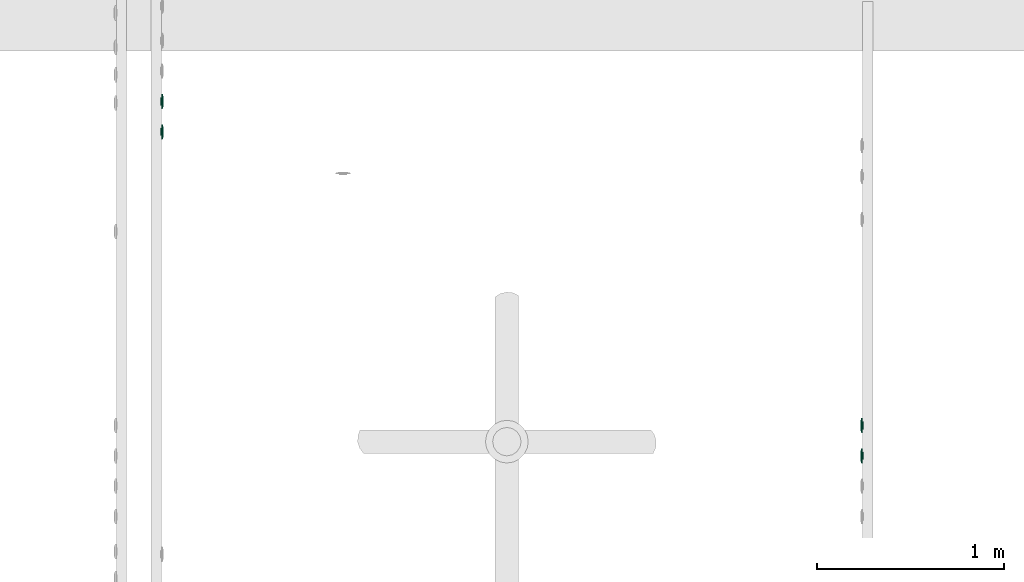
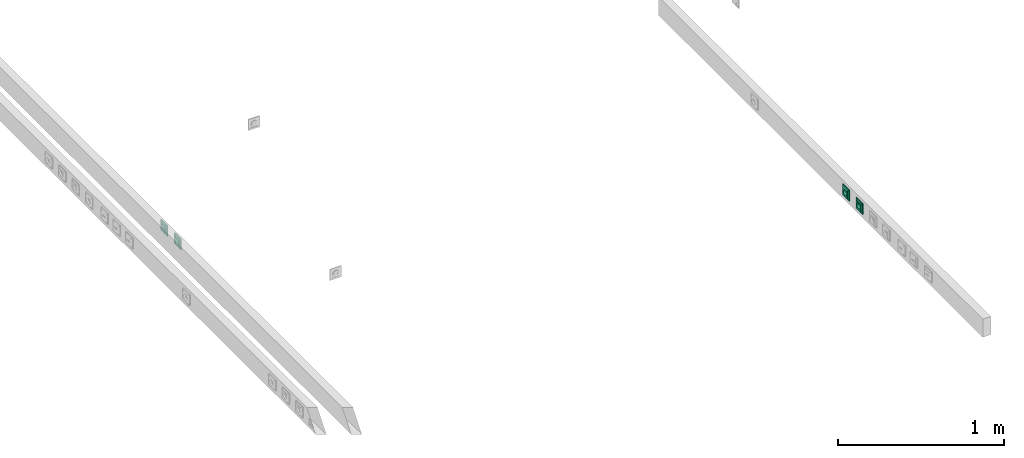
# One storey, part 44 of 166: 4 flow terminals.
"""IFC2X3 building model written with IfcOpenShell, lengths in metres."""

from ifc_helpers import new_model, entity, si_unit, converted_unit, derived_unit, direction, frame, origin, place, context, subcontext, project, spatial, face_set, surface_model, source, transform, mapped, type_object, type_shapes, element, save


model = new_model("IFC2X3")

# Units and contexts
model_context = context("Model", 3, precision=1e-05, world=origin(), true_north=direction((6.12303176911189e-17, 1.0)))
body_context = subcontext(model_context, "Body", "Model", "MODEL_VIEW")
ifc_project = project(units=[si_unit("LENGTHUNIT", "METRE"), si_unit("AREAUNIT", "SQUARE_METRE"), si_unit("VOLUMEUNIT", "CUBIC_METRE"), converted_unit("PLANEANGLEUNIT", "DEGREE", entity("IfcRatioMeasure", 0.0174532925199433), si_unit("PLANEANGLEUNIT", "RADIAN"), dimensions=[0, 0, 0, 0, 0, 0, 0]), si_unit("MASSUNIT", "GRAM", prefix="KILO"), derived_unit("MASSDENSITYUNIT", [(si_unit("MASSUNIT", "GRAM", prefix="KILO"), 1), (si_unit("LENGTHUNIT", "METRE"), -3)]), si_unit("TIMEUNIT", "SECOND"), si_unit("FREQUENCYUNIT", "HERTZ"), si_unit("THERMODYNAMICTEMPERATUREUNIT", "DEGREE_CELSIUS"), derived_unit("THERMALTRANSMITTANCEUNIT", [(si_unit("MASSUNIT", "GRAM", prefix="KILO"), 1), (si_unit("THERMODYNAMICTEMPERATUREUNIT", "KELVIN"), -1), (si_unit("TIMEUNIT", "SECOND"), -3)]), derived_unit("VOLUMETRICFLOWRATEUNIT", [(si_unit("LENGTHUNIT", "METRE"), 3), (si_unit("TIMEUNIT", "SECOND"), -1)]), si_unit("ELECTRICCURRENTUNIT", "AMPERE"), si_unit("ELECTRICVOLTAGEUNIT", "VOLT"), si_unit("POWERUNIT", "WATT"), si_unit("FORCEUNIT", "NEWTON"), si_unit("ILLUMINANCEUNIT", "LUX"), si_unit("LUMINOUSFLUXUNIT", "LUMEN"), si_unit("LUMINOUSINTENSITYUNIT", "CANDELA"), derived_unit("USERDEFINED", [(si_unit("MASSUNIT", "GRAM", prefix="KILO"), -1), (si_unit("LENGTHUNIT", "METRE"), -2), (si_unit("TIMEUNIT", "SECOND"), 3), (si_unit("LUMINOUSFLUXUNIT", "LUMEN"), 1)]), derived_unit("LINEARVELOCITYUNIT", [(si_unit("LENGTHUNIT", "METRE"), 1), (si_unit("TIMEUNIT", "SECOND"), -1)]), si_unit("PRESSUREUNIT", "PASCAL"), derived_unit("USERDEFINED", [(si_unit("LENGTHUNIT", "METRE"), -2), (si_unit("MASSUNIT", "GRAM", prefix="KILO"), 1), (si_unit("TIMEUNIT", "SECOND"), -2)])], contexts=[model_context])

# Site, building, storey
site_placement = place(None, origin())
site = spatial("IfcSite", under=ifc_project, at=site_placement, Name="Default", CompositionType="ELEMENT")
building_placement = place(site_placement, origin())
building = spatial("IfcBuilding", under=site, at=building_placement, CompositionType="ELEMENT")
storey_placement = place(building_placement, frame((0.0, 0.0, 4.27)))
storey = spatial("IfcBuildingStorey", under=building, at=storey_placement, Name="01", CompositionType="ELEMENT", Elevation=4.27)

# Flow terminals
light_fixture_type = type_object("IfcLightFixtureType", Name="IP20 ONDULEE", PredefinedType="NOTDEFINED")
shared_shape = source(origin(), body_context, "Body", "SurfaceModel", [
    surface_model("IfcFaceBasedSurfaceModel", [(-0.00225000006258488, 0.0127499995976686, 0.00949633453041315), (0.0, 0.0104999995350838, 0.00949633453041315), (0.0, 0.0115376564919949, 0.0101656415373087), (0.0, 0.0139623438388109, 0.0101656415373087), (0.0, 0.0144589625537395, 0.00984531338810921), (0.0, 0.0121178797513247, 0.0102778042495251), (0.0, 0.0133821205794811, 0.0102778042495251), (0.0, 0.0127499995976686, 0.010399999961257), (0.0, 0.0149999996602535, 0.00949633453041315), (0.00225000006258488, 0.0127499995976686, 0.00949633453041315), (0.0, 0.0110410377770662, 0.00984531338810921), (0.0, 0.0127499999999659, 0.00949633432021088), (0.00225000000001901, 0.0127499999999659, 0.00949633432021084), (0.00217333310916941, 0.0121676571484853, 0.00949633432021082), (0.00194855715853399, 0.0116249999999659, 0.00949633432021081), (0.00159099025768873, 0.0111590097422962, 0.00949633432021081), (0.001125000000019, 0.010801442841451, 0.00949633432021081), (0.00058234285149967, 0.0105766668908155, 0.00949633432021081), (0.0, 0.0104999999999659, 0.00949633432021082), (-0.000582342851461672, 0.0105766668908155, 0.00949633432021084), (-0.001124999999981, 0.010801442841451, 0.00949633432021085), (-0.00159099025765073, 0.0111590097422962, 0.00949633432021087), (-0.00194855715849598, 0.011624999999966, 0.00949633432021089), (-0.0021733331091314, 0.0121676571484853, 0.00949633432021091), (-0.00224999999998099, 0.012749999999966, 0.00949633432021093), (-0.00217333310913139, 0.0133323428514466, 0.00949633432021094), (-0.00194855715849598, 0.013874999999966, 0.00949633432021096), (-0.00159099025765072, 0.0143409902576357, 0.00949633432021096), (-0.00112499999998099, 0.0146985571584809, 0.00949633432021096), (-0.00058234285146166, 0.0149233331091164, 0.00949633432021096), (0.0, 0.0149999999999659, 0.00949633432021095), (0.000582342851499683, 0.0149233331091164, 0.00949633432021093), (0.00112500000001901, 0.0146985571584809, 0.00949633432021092), (0.00159099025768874, 0.0143409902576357, 0.00949633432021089), (0.001948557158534, 0.0138749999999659, 0.00949633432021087), (0.00217333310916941, 0.0133323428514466, 0.00949633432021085), (0.00225000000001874, 0.0127499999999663, -0.00360000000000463), (0.00217333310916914, 0.0121676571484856, -0.00360000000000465), (0.00194855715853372, 0.0116249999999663, -0.00360000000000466), (0.00159099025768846, 0.0111590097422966, -0.00360000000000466), (0.00112500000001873, 0.0108014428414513, -0.00360000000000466), (0.000582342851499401, 0.0105766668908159, -0.00360000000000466), (0.0, 0.0104999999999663, -0.00360000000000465), (-0.000582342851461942, 0.0105766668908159, -0.00360000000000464), (-0.00112499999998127, 0.0108014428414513, -0.00360000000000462), (-0.001590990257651, 0.0111590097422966, -0.0036000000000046), (-0.00194855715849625, 0.0116249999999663, -0.00360000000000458), (-0.00217333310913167, 0.0121676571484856, -0.00360000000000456), (-0.00224999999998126, 0.0127499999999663, -0.00360000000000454), (-0.00217333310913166, 0.013332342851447, -0.00360000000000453), (-0.00194855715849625, 0.0138749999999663, -0.00360000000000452), (-0.00159099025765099, 0.014340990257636, -0.00360000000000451), (-0.00112499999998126, 0.0146985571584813, -0.00360000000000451), (-0.000582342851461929, 0.0149233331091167, -0.00360000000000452), (0.0, 0.0149999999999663, -0.00360000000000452), (0.000582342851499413, 0.0149233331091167, -0.00360000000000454), (0.00112500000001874, 0.0146985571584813, -0.00360000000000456), (0.00159099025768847, 0.014340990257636, -0.00360000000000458), (0.00194855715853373, 0.0138749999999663, -0.0036000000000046), (0.00217333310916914, 0.013332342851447, -0.00360000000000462), (0.0270000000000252, 0.026999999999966, 0.0113999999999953), (-0.0269999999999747, 0.026999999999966, 0.0113999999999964), (-0.0269999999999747, -0.0270000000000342, 0.0113999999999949), (0.0270000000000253, -0.0270000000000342, 0.0113999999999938), (-0.0199999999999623, 0.0, 0.0113999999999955), (-0.0193185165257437, -0.00517638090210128, 0.0113999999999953), (-0.0173205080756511, -0.0100000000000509, 0.0113999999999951), (-0.0141421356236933, -0.0141421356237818, 0.011399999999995), (-0.00999999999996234, -0.0173205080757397, 0.0113999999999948), (-0.00517638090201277, -0.0193185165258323, 0.0113999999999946), (0.0, -0.0200000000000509, 0.0113999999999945), (0.00517638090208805, -0.0193185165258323, 0.0113999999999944), (0.0100000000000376, -0.0173205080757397, 0.0113999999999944), (0.0141421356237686, -0.0141421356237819, 0.0113999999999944), (0.0173205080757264, -0.010000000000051, 0.0113999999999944), (0.0193185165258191, -0.00517638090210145, 0.0113999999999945), (0.0200000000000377, 0.0, 0.0113999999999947), (0.0193185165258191, 0.00517638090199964, 0.0113999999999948), (0.0173205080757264, 0.0099999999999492, 0.011399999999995), (0.0141421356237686, 0.0141421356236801, 0.0113999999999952), (0.0100000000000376, 0.0173205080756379, 0.0113999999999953), (0.00517638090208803, 0.0193185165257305, 0.0113999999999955), (0.0, 0.0199999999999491, 0.0113999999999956), (-0.00517638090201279, 0.0193185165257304, 0.0113999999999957), (-0.00999999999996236, 0.0173205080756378, 0.0113999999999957), (-0.0141421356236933, 0.01414213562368, 0.0113999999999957), (-0.0173205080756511, 0.00999999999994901, 0.0113999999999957), (-0.0193185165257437, 0.00517638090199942, 0.0113999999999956), (0.0270000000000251, 0.0269999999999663, 0.00199999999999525), (0.0270000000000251, -0.0270000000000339, 0.00199999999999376), (-0.0269999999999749, -0.0270000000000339, 0.00199999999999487), (-0.0269999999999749, 0.0269999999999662, 0.00199999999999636), (0.0210000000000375, 0.0, 0.00199999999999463), (0.0202844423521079, -0.00543519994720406, 0.00199999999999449), (0.0181865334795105, -0.0105000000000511, 0.0019999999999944), (0.0148492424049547, -0.0148492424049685, 0.00199999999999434), (0.0105000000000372, -0.0181865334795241, 0.00199999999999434), (0.0054351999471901, -0.0202844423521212, 0.00199999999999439), (0.0, -0.0210000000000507, 0.00199999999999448), (-0.00543519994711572, -0.020284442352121, 0.00199999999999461), (-0.0104999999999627, -0.0181865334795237, 0.00199999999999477), (-0.0148492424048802, -0.014849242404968, 0.00199999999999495), (-0.0181865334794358, -0.0105000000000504, 0.00199999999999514), (-0.020284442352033, -0.00543519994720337, 0.00199999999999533), (-0.0209999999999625, 0.0, 0.00199999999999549), (-0.0202844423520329, 0.0054351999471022, 0.00199999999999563), (-0.0181865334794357, 0.0104999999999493, 0.00199999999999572), (-0.01484924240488, 0.0148492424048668, 0.00199999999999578), (-0.0104999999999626, 0.0181865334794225, 0.00199999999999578), (-0.00543519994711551, 0.0202844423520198, 0.00199999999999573), (0.0, 0.0209999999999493, 0.00199999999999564), (0.00543519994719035, 0.0202844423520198, 0.00199999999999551), (0.0105000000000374, 0.0181865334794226, 0.00199999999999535), (0.0148492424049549, 0.0148492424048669, 0.00199999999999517), (0.0181865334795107, 0.0104999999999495, 0.00199999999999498), (0.0202844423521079, 0.00543519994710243, 0.00199999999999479), (0.0200000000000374, 0.0, -0.00360000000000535), (0.0193185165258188, -0.00517638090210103, -0.00360000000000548), (0.0173205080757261, -0.0100000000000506, -0.00360000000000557), (0.0141421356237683, -0.0141421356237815, -0.00360000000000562), (0.0100000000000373, -0.0173205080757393, -0.00360000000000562), (0.00517638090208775, -0.0193185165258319, -0.00360000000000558), (0.0, -0.0200000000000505, -0.00360000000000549), (-0.00517638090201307, -0.0193185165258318, -0.00360000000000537), (-0.00999999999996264, -0.0173205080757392, -0.00360000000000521), (-0.0141421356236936, -0.0141421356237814, -0.00360000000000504), (-0.0173205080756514, -0.0100000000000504, -0.00360000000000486), (-0.019318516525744, -0.00517638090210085, -0.00360000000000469), (-0.0199999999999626, 0.0, -0.00360000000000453), (-0.0193185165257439, 0.00517638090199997, -0.0036000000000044), (-0.0173205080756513, 0.00999999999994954, -0.00360000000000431), (-0.0141421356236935, 0.0141421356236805, -0.00360000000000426), (-0.00999999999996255, 0.0173205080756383, -0.00360000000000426), (-0.00517638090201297, 0.0193185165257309, -0.0036000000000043), (0.0, 0.0199999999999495, -0.00360000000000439), (0.00517638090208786, 0.0193185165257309, -0.00360000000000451), (0.0100000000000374, 0.0173205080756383, -0.00360000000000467), (0.0141421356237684, 0.0141421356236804, -0.00360000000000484), (0.0173205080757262, 0.0099999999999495, -0.00360000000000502), (0.0193185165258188, 0.00517638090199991, -0.00360000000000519), (-0.0123499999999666, 0.0, -0.00360000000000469), (-0.0122562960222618, -0.000711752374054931, -0.00360000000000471), (-0.0119815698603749, -0.00137500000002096, -0.00360000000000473), (-0.0115445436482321, -0.00194454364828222, -0.00360000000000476), (-0.0109749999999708, -0.00238156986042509, -0.00360000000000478), (-0.0103117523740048, -0.00265629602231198, -0.0036000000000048), (-0.00959999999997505, -0.00275000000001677, -0.00360000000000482), (-0.0088882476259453, -0.00265629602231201, -0.00360000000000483), (-0.00822499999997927, -0.00238156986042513, -0.00360000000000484), (-0.00765545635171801, -0.00194454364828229, -0.00360000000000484), (-0.00721843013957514, -0.00137500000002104, -0.00360000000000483), (-0.00694370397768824, -0.000711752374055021, -0.00360000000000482), (-0.00684999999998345, 0.0, -0.0036000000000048), (-0.00694370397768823, 0.000711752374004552, -0.00360000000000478), (-0.00721843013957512, 0.00137499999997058, -0.00360000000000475), (-0.00765545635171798, 0.00194454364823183, -0.00360000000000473), (-0.00822499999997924, 0.00238156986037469, -0.0036000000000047), (-0.00888824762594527, 0.00265629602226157, -0.00360000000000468), (-0.00959999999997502, 0.00274999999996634, -0.00360000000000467), (-0.0103117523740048, 0.00265629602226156, -0.00360000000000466), (-0.0109749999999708, 0.00238156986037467, -0.00360000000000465), (-0.011544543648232, 0.00194454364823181, -0.00360000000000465), (-0.0119815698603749, 0.00137499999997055, -0.00360000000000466), (-0.0122562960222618, 0.000711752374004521, -0.00360000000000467), (0.00685000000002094, 0.0, -0.00360000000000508), (0.0069437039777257, -0.00071175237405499, -0.0036000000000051), (0.00721843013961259, -0.00137500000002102, -0.00360000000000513), (0.00765545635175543, -0.00194454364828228, -0.00360000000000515), (0.00822500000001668, -0.00238156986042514, -0.00360000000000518), (0.00888824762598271, -0.00265629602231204, -0.0036000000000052), (0.00960000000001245, -0.00275000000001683, -0.00360000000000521), (0.0103117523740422, -0.00265629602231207, -0.00360000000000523), (0.0109750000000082, -0.00238156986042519, -0.00360000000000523), (0.0115445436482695, -0.00194454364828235, -0.00360000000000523), (0.0119815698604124, -0.0013750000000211, -0.00360000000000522), (0.0122562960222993, -0.00071175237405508, -0.00360000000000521), (0.012350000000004, 0.0, -0.00360000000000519), (0.0122562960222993, 0.000711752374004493, -0.00360000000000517), (0.0119815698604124, 0.00137499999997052, -0.00360000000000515), (0.0115445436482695, 0.00194454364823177, -0.00360000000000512), (0.0109750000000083, 0.00238156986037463, -0.0036000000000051), (0.0103117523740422, 0.00265629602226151, -0.00360000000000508), (0.00960000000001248, 0.00274999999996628, -0.00360000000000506), (0.00888824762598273, 0.0026562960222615, -0.00360000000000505), (0.0082250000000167, 0.00238156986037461, -0.00360000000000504), (0.00765545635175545, 0.00194454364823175, -0.00360000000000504), (0.0072184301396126, 0.00137499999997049, -0.00360000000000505), (0.00694370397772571, 0.000711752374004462, -0.00360000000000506), (0.0210000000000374, 0.0, -0.00460000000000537), (0.0202844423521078, -0.00543519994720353, -0.00460000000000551), (0.0181865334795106, -0.0105000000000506, -0.0046000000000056), (0.0148492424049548, -0.0148492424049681, -0.00460000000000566), (0.0105000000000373, -0.0181865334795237, -0.00460000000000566), (0.00543519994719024, -0.0202844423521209, -0.00460000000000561), (0.0, -0.0210000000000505, -0.00460000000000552), (-0.00543519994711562, -0.0202844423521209, -0.00460000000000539), (-0.0104999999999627, -0.0181865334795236, -0.00460000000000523), (-0.0148492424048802, -0.0148492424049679, -0.00460000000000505), (-0.0181865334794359, -0.0105000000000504, -0.00460000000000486), (-0.0202844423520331, -0.00543519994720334, -0.00460000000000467), (-0.0209999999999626, 0.0, -0.00460000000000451), (-0.020284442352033, 0.00543519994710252, -0.00460000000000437), (-0.0181865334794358, 0.0104999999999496, -0.00460000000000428), (-0.0148492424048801, 0.0148492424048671, -0.00460000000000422), (-0.0104999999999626, 0.0181865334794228, -0.00460000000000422), (-0.00543519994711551, 0.02028444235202, -0.00460000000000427), (0.0, 0.0209999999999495, -0.00460000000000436), (0.00543519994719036, 0.02028444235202, -0.00460000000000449), (0.0105000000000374, 0.0181865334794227, -0.00460000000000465), (0.0148492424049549, 0.014849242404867, -0.00460000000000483), (0.0181865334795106, 0.0104999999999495, -0.00460000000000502), (0.0202844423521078, 0.00543519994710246, -0.00460000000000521), (-0.00684999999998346, 0.0, -0.0046000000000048), (-0.00694370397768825, 0.000711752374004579, -0.00460000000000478), (-0.00721843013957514, 0.00137499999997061, -0.00460000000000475), (-0.007655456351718, 0.00194454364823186, -0.00460000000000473), (-0.00822499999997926, 0.00238156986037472, -0.0046000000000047), (-0.00888824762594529, 0.0026562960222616, -0.00460000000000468), (-0.00959999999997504, 0.00274999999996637, -0.00460000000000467), (-0.0103117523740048, 0.00265629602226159, -0.00460000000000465), (-0.0109749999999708, 0.0023815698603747, -0.00460000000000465), (-0.0115445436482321, 0.00194454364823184, -0.00460000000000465), (-0.0119815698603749, 0.00137499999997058, -0.00460000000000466), (-0.0122562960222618, 0.000711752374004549, -0.00460000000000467), (-0.0123499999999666, 0.0, -0.00460000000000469), (-0.0122562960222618, -0.000711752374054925, -0.00460000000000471), (-0.0119815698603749, -0.00137500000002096, -0.00460000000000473), (-0.0115445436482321, -0.00194454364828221, -0.00460000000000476), (-0.0109749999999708, -0.00238156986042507, -0.00460000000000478), (-0.0103117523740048, -0.00265629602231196, -0.0046000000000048), (-0.00959999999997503, -0.00275000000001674, -0.00460000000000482), (-0.00888824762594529, -0.00265629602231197, -0.00460000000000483), (-0.00822499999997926, -0.00238156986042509, -0.00460000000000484), (-0.007655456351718, -0.00194454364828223, -0.00460000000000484), (-0.00721843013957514, -0.00137500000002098, -0.00460000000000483), (-0.00694370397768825, -0.000711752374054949, -0.00460000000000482), (0.012350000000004, 0.0, -0.00460000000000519), (0.0122562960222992, 0.000711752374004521, -0.00460000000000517), (0.0119815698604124, 0.00137499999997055, -0.00460000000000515), (0.0115445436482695, 0.0019445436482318, -0.00460000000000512), (0.0109750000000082, 0.00238156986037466, -0.0046000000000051), (0.0103117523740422, 0.00265629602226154, -0.00460000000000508), (0.00960000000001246, 0.00274999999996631, -0.00460000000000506), (0.00888824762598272, 0.00265629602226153, -0.00460000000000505), (0.00822500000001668, 0.00238156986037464, -0.00460000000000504), (0.00765545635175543, 0.00194454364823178, -0.00460000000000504), (0.00721843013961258, 0.00137499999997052, -0.00460000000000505), (0.00694370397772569, 0.00071175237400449, -0.00460000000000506), (0.00685000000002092, 0.0, -0.00460000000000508), (0.00694370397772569, -0.000711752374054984, -0.0046000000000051), (0.00721843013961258, -0.00137500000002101, -0.00460000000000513), (0.00765545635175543, -0.00194454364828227, -0.00460000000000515), (0.00822500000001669, -0.00238156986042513, -0.00460000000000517), (0.00888824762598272, -0.00265629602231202, -0.0046000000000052), (0.00960000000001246, -0.0027500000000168, -0.00460000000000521), (0.0103117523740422, -0.00265629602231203, -0.00460000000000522), (0.0109750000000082, -0.00238156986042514, -0.00460000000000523), (0.0115445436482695, -0.00194454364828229, -0.00460000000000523), (0.0119815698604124, -0.00137500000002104, -0.00460000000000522), (0.0122562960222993, -0.000711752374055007, -0.00460000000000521), (0.040350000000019, 0.0403499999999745, 0.00659999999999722), (0.040350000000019, -0.0403500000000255, 0.00659999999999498), (-0.0403499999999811, -0.0403500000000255, 0.00659999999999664), (-0.0403499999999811, 0.0403499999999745, 0.00659999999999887), (0.027000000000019, 0.0269999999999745, 0.00659999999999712), (-0.0269999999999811, 0.0269999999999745, 0.00659999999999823), (-0.026999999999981, -0.0270000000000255, 0.00659999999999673), (0.027000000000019, -0.0270000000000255, 0.00659999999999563), (0.027000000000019, 0.0269999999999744, 0.0103999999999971), (-0.026999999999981, 0.0269999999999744, 0.0103999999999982), (-0.026999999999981, -0.0270000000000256, 0.0103999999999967), (0.027000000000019, -0.0270000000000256, 0.0103999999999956), (0.040350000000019, 0.0403499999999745, 0.00659999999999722), (0.040350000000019, -0.0403500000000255, 0.00659999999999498), (-0.0403499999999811, -0.0403500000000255, 0.00659999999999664), (-0.0403499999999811, 0.0403499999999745, 0.00659999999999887), (-0.0269999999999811, 0.0269999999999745, 0.00659999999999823), (-0.0269999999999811, -0.0270000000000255, 0.00659999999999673), (0.0270000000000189, -0.0270000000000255, 0.00659999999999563), (0.0270000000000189, 0.0269999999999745, 0.00659999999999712), (0.0403500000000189, 0.0403499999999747, 0.0), (0.0403500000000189, -0.0403500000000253, 0.0), (-0.0403499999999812, -0.0403500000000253, 0.0), (-0.0403499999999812, 0.0403499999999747, 0.0), (0.0270000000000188, 0.0269999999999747, 0.0), (-0.0269999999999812, 0.0269999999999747, 0.0), (-0.0269999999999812, -0.0270000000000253, 0.0), (0.0270000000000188, -0.0270000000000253, 0.0)], [face_set([[[0, 1, 2]], [[3, 4, 2, 5]], [[6, 3, 5, 7]], [[2, 4, 0]], [[4, 8, 0]], [[3, 9, 8]], [[1, 9, 10]], [[2, 3, 6, 7]], [[3, 10, 9]], [[2, 10, 3]], [[11, 1, 0, 8]], [[11, 8, 9, 1]]]), face_set([[[12, 13, 14, 15, 16, 17, 18, 19, 20, 21, 22, 23, 24, 25, 26, 27, 28, 29, 30, 31, 32, 33, 34, 35]], [[36, 37, 38, 39, 40, 41, 42, 43, 44, 45, 46, 47, 48, 49, 50, 51, 52, 53, 54, 55, 56, 57, 58, 59]], [[48, 47, 23, 24]], [[47, 46, 22, 23]], [[45, 44, 20, 21]], [[46, 45, 21, 22]], [[44, 43, 19, 20]], [[18, 19, 43, 42]], [[42, 41, 17, 18]], [[41, 40, 16, 17]], [[39, 38, 14, 15]], [[40, 39, 15, 16]], [[38, 37, 13, 14]], [[12, 13, 37, 36]], [[36, 59, 35, 12]], [[59, 58, 34, 35]], [[57, 56, 32, 33]], [[58, 57, 33, 34]], [[56, 55, 31, 32]], [[30, 31, 55, 54]], [[54, 53, 29, 30]], [[53, 52, 28, 29]], [[51, 50, 26, 27]], [[52, 51, 27, 28]], [[50, 49, 25, 26]], [[24, 25, 49, 48]]]), face_set([[[60, 61, 62, 63], [64, 65, 66, 67, 68, 69, 70, 71, 72, 73, 74, 75, 76, 77, 78, 79, 80, 81, 82, 83, 84, 85, 86, 87]], [[88, 89, 90, 91], [92, 93, 94, 95, 96, 97, 98, 99, 100, 101, 102, 103, 104, 105, 106, 107, 108, 109, 110, 111, 112, 113, 114, 115]], [[61, 60, 88, 91]], [[62, 61, 91, 90]], [[63, 62, 90, 89]], [[60, 63, 89, 88]], [[116, 117, 118, 119, 120, 121, 122, 123, 124, 125, 126, 127, 128, 129, 130, 131, 132, 133, 134, 135, 136, 137, 138, 139], [140, 141, 142, 143, 144, 145, 146, 147, 148, 149, 150, 151, 152, 153, 154, 155, 156, 157, 158, 159, 160, 161, 162, 163], [164, 165, 166, 167, 168, 169, 170, 171, 172, 173, 174, 175, 176, 177, 178, 179, 180, 181, 182, 183, 184, 185, 186, 187]], [[64, 128, 127, 65]], [[65, 127, 126, 66]], [[67, 125, 124, 68]], [[66, 126, 125, 67]], [[68, 124, 123, 69]], [[122, 70, 69, 123]], [[70, 122, 121, 71]], [[71, 121, 120, 72]], [[73, 119, 118, 74]], [[72, 120, 119, 73]], [[74, 118, 117, 75]], [[116, 76, 75, 117]], [[76, 116, 139, 77]], [[77, 139, 138, 78]], [[79, 137, 136, 80]], [[78, 138, 137, 79]], [[80, 136, 135, 81]], [[134, 82, 81, 135]], [[82, 134, 133, 83]], [[83, 133, 132, 84]], [[84, 132, 131, 85]], [[85, 131, 130, 86]], [[130, 129, 87, 86]], [[64, 87, 129, 128]], [[188, 189, 190, 191, 192, 193, 194, 195, 196, 197, 198, 199, 200, 201, 202, 203, 204, 205, 206, 207, 208, 209, 210, 211], [212, 213, 214, 215, 216, 217, 218, 219, 220, 221, 222, 223, 224, 225, 226, 227, 228, 229, 230, 231, 232, 233, 234, 235], [236, 237, 238, 239, 240, 241, 242, 243, 244, 245, 246, 247, 248, 249, 250, 251, 252, 253, 254, 255, 256, 257, 258, 259]], [[200, 199, 103, 104]], [[199, 198, 102, 103]], [[197, 196, 100, 101]], [[198, 197, 101, 102]], [[196, 195, 99, 100]], [[98, 99, 195, 194]], [[194, 193, 97, 98]], [[193, 192, 96, 97]], [[191, 190, 94, 95]], [[192, 191, 95, 96]], [[190, 189, 93, 94]], [[92, 93, 189, 188]], [[188, 211, 115, 92]], [[211, 210, 114, 115]], [[209, 208, 112, 113]], [[210, 209, 113, 114]], [[208, 207, 111, 112]], [[110, 111, 207, 206]], [[206, 205, 109, 110]], [[205, 204, 108, 109]], [[203, 202, 106, 107]], [[204, 203, 107, 108]], [[202, 201, 105, 106]], [[104, 105, 201, 200]], [[141, 225, 226, 142]], [[140, 224, 225, 141]], [[144, 228, 229, 145]], [[143, 227, 228, 144]], [[142, 226, 227, 143]], [[230, 146, 145, 229]], [[149, 233, 232, 148]], [[148, 232, 231, 147]], [[152, 212, 235, 151]], [[151, 235, 234, 150]], [[150, 234, 233, 149]], [[146, 230, 231, 147]], [[154, 214, 213, 153]], [[153, 213, 212, 152]], [[157, 217, 216, 156]], [[156, 216, 215, 155]], [[155, 215, 214, 154]], [[218, 158, 157, 217]], [[160, 220, 221, 161]], [[159, 219, 220, 160]], [[163, 223, 224, 140]], [[162, 222, 223, 163]], [[161, 221, 222, 162]], [[158, 218, 219, 159]], [[166, 250, 249, 165]], [[165, 249, 248, 164]], [[169, 253, 252, 168]], [[168, 252, 251, 167]], [[167, 251, 250, 166]], [[254, 170, 169, 253]], [[172, 256, 257, 173]], [[171, 255, 256, 172]], [[175, 259, 236, 176]], [[174, 258, 259, 175]], [[173, 257, 258, 174]], [[170, 254, 255, 171]], [[177, 237, 238, 178]], [[176, 236, 237, 177]], [[180, 240, 241, 181]], [[179, 239, 240, 180]], [[178, 238, 239, 179]], [[242, 182, 181, 241]], [[185, 245, 244, 184]], [[184, 244, 243, 183]], [[164, 248, 247, 187]], [[187, 247, 246, 186]], [[186, 246, 245, 185]], [[182, 242, 243, 183]]]), face_set([[[260, 261, 262, 263], [264, 265, 266, 267]], [[260, 268, 269, 263]], [[263, 269, 270, 262]], [[262, 270, 271, 261]], [[261, 271, 268, 260]], [[264, 265, 269, 268]], [[265, 266, 270, 269]], [[266, 267, 271, 270]], [[268, 271, 267, 264]]]), face_set([[[272, 273, 274, 275], [276, 277, 278, 279]], [[280, 281, 282, 283], [284, 285, 286, 287]], [[275, 272, 280, 283]], [[274, 275, 283, 282]], [[273, 274, 282, 281]], [[272, 273, 281, 280]], [[284, 285, 276, 279]], [[285, 286, 277, 276]], [[286, 287, 278, 277]], [[279, 278, 287, 284]]])]),
])
type_shapes(light_fixture_type, [shared_shape])
for number, where, z_axis, x_axis in (
    (1, (37.3667436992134, -191.55310839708, 4.70800000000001), (-1.0, 0.0, 0.0), (0.0, -1.0, 0.0)),
    (2, (37.3667436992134, -191.71610839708, 4.70800000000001), (-1.0, 0.0, 0.0), (0.0, -1.0, 0.0)),
    (3, (33.6087436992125, -189.979564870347, 4.70800000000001), (1.0, 0.0, 0.0), (0.0, 1.0, 0.0)),
    (4, (33.6087436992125, -189.816564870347, 4.70800000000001), (1.0, 0.0, 0.0), (0.0, 1.0, 0.0)),
):
    element("IfcFlowTerminal", number, at=place(building_placement, frame(where, z_axis=z_axis, x_axis=x_axis)), inside=storey, type_object=light_fixture_type, Name="INT Prise de courant:IP20 ONDULEE", ObjectType="INT Prise de courant:IP20 ONDULEE", context=body_context, shape_type="MappedRepresentation", body=[
        mapped(shared_shape, transform((0.0, 0.0, 0.0), scale=1.0)),
    ])

save(model, "model.ifc")
